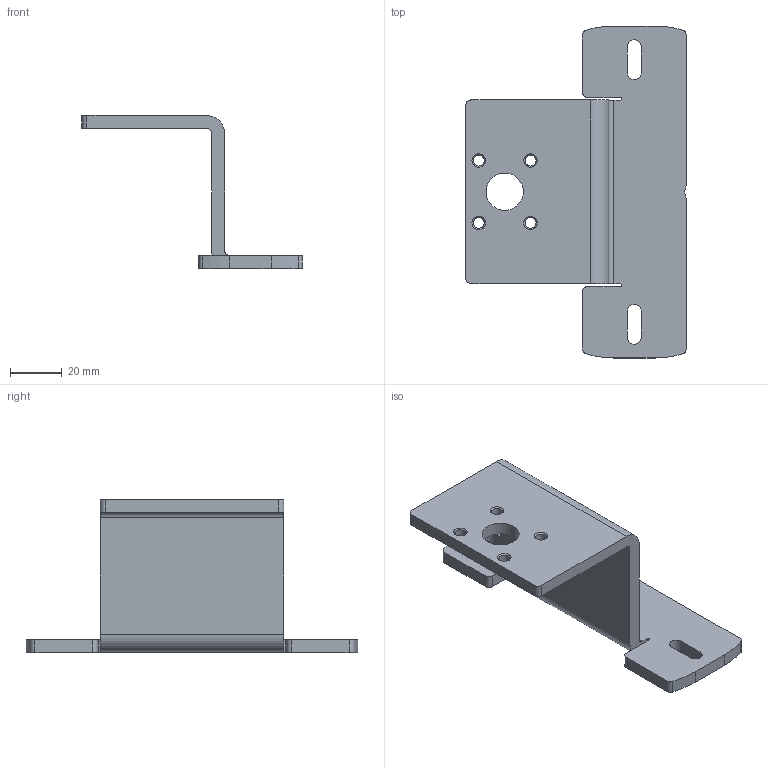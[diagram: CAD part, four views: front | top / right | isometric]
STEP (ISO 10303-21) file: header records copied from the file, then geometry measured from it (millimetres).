
FILE_DESCRIPTION (( 'STEP AP203' ), '1' );
FILE_NAME ('ZF_STEP_AP_X12.STEP', '2025-11-17T10:24:24', ( '' ), ( '' ), 'SwSTEP 2.0', 'SolidWorks 2023', '' );
FILE_SCHEMA (( 'CONFIG_CONTROL_DESIGN' ));
Length unit declared in the file: millimetre
Products named in the file (2): ZF_STEP_AP_X12; 33046_33046
Assembly tree (1 placements, depth 2):
  ZF_STEP_AP_X12
    33046_33046
Bounding box: 85 x 128 x 59 mm (x, y, z)
Volume: 57062.1 mm3; surface area: 26531 mm2
Topology: 1 solids, 1 shells, 72 faces, 194 edges, 124 vertices
Faces by surface type: cylinder 35, plane 21, cone 16
Entity records: 2500 total; most frequent: DIRECTION 432, CARTESIAN_POINT 394, ORIENTED_EDGE 388, EDGE_CURVE 194, AXIS2_PLACEMENT_3D 162, VERTEX_POINT 124, LINE 108, VECTOR 108
